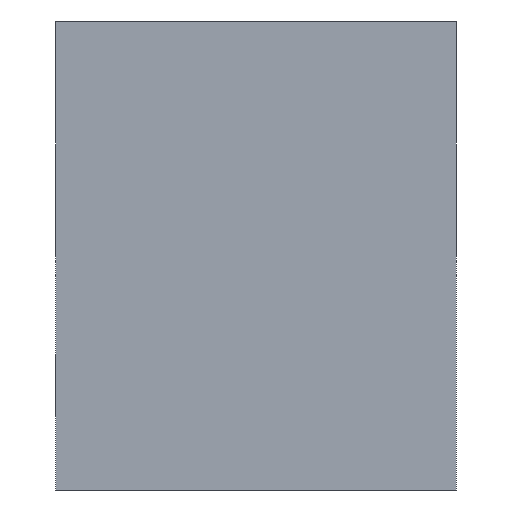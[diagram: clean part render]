
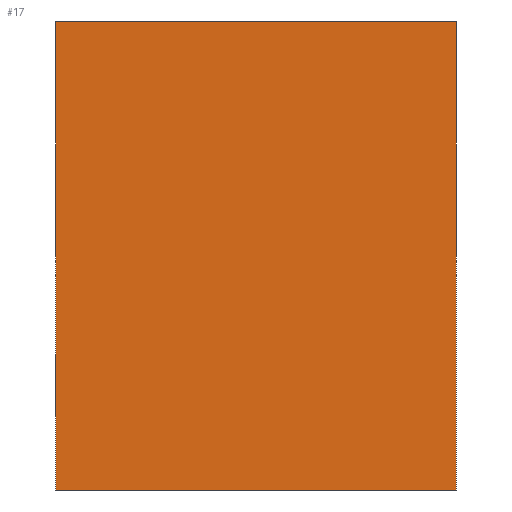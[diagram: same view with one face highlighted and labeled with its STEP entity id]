
A CAD part, left-side view. The second image highlights one B-rep face of the part: STEP entity #17.
In plain terms, the highlighted planar face has unit normal (-1, 0, 0).
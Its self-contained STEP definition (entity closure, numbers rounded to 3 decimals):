
#17 = ADVANCED_FACE('',(#18),#32,.F.);
#18 = FACE_BOUND('',#19,.F.);
#19 = EDGE_LOOP('',(#20,#55,#83,#111));
#20 = ORIENTED_EDGE('',*,*,#21,.F.);
#21 = EDGE_CURVE('',#22,#24,#26,.T.);
#22 = VERTEX_POINT('',#23);
#23 = CARTESIAN_POINT('',(-120.,-32.5,0.));
#24 = VERTEX_POINT('',#25);
#25 = CARTESIAN_POINT('',(-120.,-32.5,76.));
#26 = SURFACE_CURVE('',#27,(#31,#43),.PCURVE_S1.);
#27 = LINE('',#28,#29);
#28 = CARTESIAN_POINT('',(-120.,-32.5,0.));
#29 = VECTOR('',#30,1.);
#30 = DIRECTION('',(0.,0.,1.));
#31 = PCURVE('',#32,#37);
#32 = PLANE('',#33);
#33 = AXIS2_PLACEMENT_3D('',#34,#35,#36);
#34 = CARTESIAN_POINT('',(-120.,-32.5,0.));
#35 = DIRECTION('',(1.,0.,0.));
#36 = DIRECTION('',(0.,0.,1.));
#37 = DEFINITIONAL_REPRESENTATION('',(#38),#42);
#38 = LINE('',#39,#40);
#39 = CARTESIAN_POINT('',(0.,0.));
#40 = VECTOR('',#41,1.);
#41 = DIRECTION('',(1.,0.));
#42 = ( GEOMETRIC_REPRESENTATION_CONTEXT(2) 
PARAMETRIC_REPRESENTATION_CONTEXT() REPRESENTATION_CONTEXT('2D SPACE',''
  ) );
#43 = PCURVE('',#44,#49);
#44 = PLANE('',#45);
#45 = AXIS2_PLACEMENT_3D('',#46,#47,#48);
#46 = CARTESIAN_POINT('',(-120.,-32.5,0.));
#47 = DIRECTION('',(0.,1.,0.));
#48 = DIRECTION('',(0.,0.,1.));
#49 = DEFINITIONAL_REPRESENTATION('',(#50),#54);
#50 = LINE('',#51,#52);
#51 = CARTESIAN_POINT('',(0.,0.));
#52 = VECTOR('',#53,1.);
#53 = DIRECTION('',(1.,0.));
#54 = ( GEOMETRIC_REPRESENTATION_CONTEXT(2) 
PARAMETRIC_REPRESENTATION_CONTEXT() REPRESENTATION_CONTEXT('2D SPACE',''
  ) );
#55 = ORIENTED_EDGE('',*,*,#56,.T.);
#56 = EDGE_CURVE('',#22,#57,#59,.T.);
#57 = VERTEX_POINT('',#58);
#58 = CARTESIAN_POINT('',(-120.,32.5,0.));
#59 = SURFACE_CURVE('',#60,(#64,#71),.PCURVE_S1.);
#60 = LINE('',#61,#62);
#61 = CARTESIAN_POINT('',(-120.,-32.5,0.));
#62 = VECTOR('',#63,1.);
#63 = DIRECTION('',(0.,1.,0.));
#64 = PCURVE('',#32,#65);
#65 = DEFINITIONAL_REPRESENTATION('',(#66),#70);
#66 = LINE('',#67,#68);
#67 = CARTESIAN_POINT('',(0.,0.));
#68 = VECTOR('',#69,1.);
#69 = DIRECTION('',(0.,-1.));
#70 = ( GEOMETRIC_REPRESENTATION_CONTEXT(2) 
PARAMETRIC_REPRESENTATION_CONTEXT() REPRESENTATION_CONTEXT('2D SPACE',''
  ) );
#71 = PCURVE('',#72,#77);
#72 = PLANE('',#73);
#73 = AXIS2_PLACEMENT_3D('',#74,#75,#76);
#74 = CARTESIAN_POINT('',(-120.,-32.5,0.));
#75 = DIRECTION('',(0.,0.,1.));
#76 = DIRECTION('',(1.,0.,0.));
#77 = DEFINITIONAL_REPRESENTATION('',(#78),#82);
#78 = LINE('',#79,#80);
#79 = CARTESIAN_POINT('',(0.,0.));
#80 = VECTOR('',#81,1.);
#81 = DIRECTION('',(0.,1.));
#82 = ( GEOMETRIC_REPRESENTATION_CONTEXT(2) 
PARAMETRIC_REPRESENTATION_CONTEXT() REPRESENTATION_CONTEXT('2D SPACE',''
  ) );
#83 = ORIENTED_EDGE('',*,*,#84,.T.);
#84 = EDGE_CURVE('',#57,#85,#87,.T.);
#85 = VERTEX_POINT('',#86);
#86 = CARTESIAN_POINT('',(-120.,32.5,76.));
#87 = SURFACE_CURVE('',#88,(#92,#99),.PCURVE_S1.);
#88 = LINE('',#89,#90);
#89 = CARTESIAN_POINT('',(-120.,32.5,0.));
#90 = VECTOR('',#91,1.);
#91 = DIRECTION('',(0.,0.,1.));
#92 = PCURVE('',#32,#93);
#93 = DEFINITIONAL_REPRESENTATION('',(#94),#98);
#94 = LINE('',#95,#96);
#95 = CARTESIAN_POINT('',(0.,-65.));
#96 = VECTOR('',#97,1.);
#97 = DIRECTION('',(1.,0.));
#98 = ( GEOMETRIC_REPRESENTATION_CONTEXT(2) 
PARAMETRIC_REPRESENTATION_CONTEXT() REPRESENTATION_CONTEXT('2D SPACE',''
  ) );
#99 = PCURVE('',#100,#105);
#100 = PLANE('',#101);
#101 = AXIS2_PLACEMENT_3D('',#102,#103,#104);
#102 = CARTESIAN_POINT('',(-120.,32.5,0.));
#103 = DIRECTION('',(0.,1.,0.));
#104 = DIRECTION('',(0.,0.,1.));
#105 = DEFINITIONAL_REPRESENTATION('',(#106),#110);
#106 = LINE('',#107,#108);
#107 = CARTESIAN_POINT('',(0.,0.));
#108 = VECTOR('',#109,1.);
#109 = DIRECTION('',(1.,0.));
#110 = ( GEOMETRIC_REPRESENTATION_CONTEXT(2) 
PARAMETRIC_REPRESENTATION_CONTEXT() REPRESENTATION_CONTEXT('2D SPACE',''
  ) );
#111 = ORIENTED_EDGE('',*,*,#112,.F.);
#112 = EDGE_CURVE('',#24,#85,#113,.T.);
#113 = SURFACE_CURVE('',#114,(#118,#125),.PCURVE_S1.);
#114 = LINE('',#115,#116);
#115 = CARTESIAN_POINT('',(-120.,-32.5,76.));
#116 = VECTOR('',#117,1.);
#117 = DIRECTION('',(0.,1.,0.));
#118 = PCURVE('',#32,#119);
#119 = DEFINITIONAL_REPRESENTATION('',(#120),#124);
#120 = LINE('',#121,#122);
#121 = CARTESIAN_POINT('',(76.,0.));
#122 = VECTOR('',#123,1.);
#123 = DIRECTION('',(0.,-1.));
#124 = ( GEOMETRIC_REPRESENTATION_CONTEXT(2) 
PARAMETRIC_REPRESENTATION_CONTEXT() REPRESENTATION_CONTEXT('2D SPACE',''
  ) );
#125 = PCURVE('',#126,#131);
#126 = PLANE('',#127);
#127 = AXIS2_PLACEMENT_3D('',#128,#129,#130);
#128 = CARTESIAN_POINT('',(-120.,-32.5,76.));
#129 = DIRECTION('',(0.,0.,1.));
#130 = DIRECTION('',(1.,0.,0.));
#131 = DEFINITIONAL_REPRESENTATION('',(#132),#136);
#132 = LINE('',#133,#134);
#133 = CARTESIAN_POINT('',(0.,0.));
#134 = VECTOR('',#135,1.);
#135 = DIRECTION('',(0.,1.));
#136 = ( GEOMETRIC_REPRESENTATION_CONTEXT(2) 
PARAMETRIC_REPRESENTATION_CONTEXT() REPRESENTATION_CONTEXT('2D SPACE',''
  ) );
